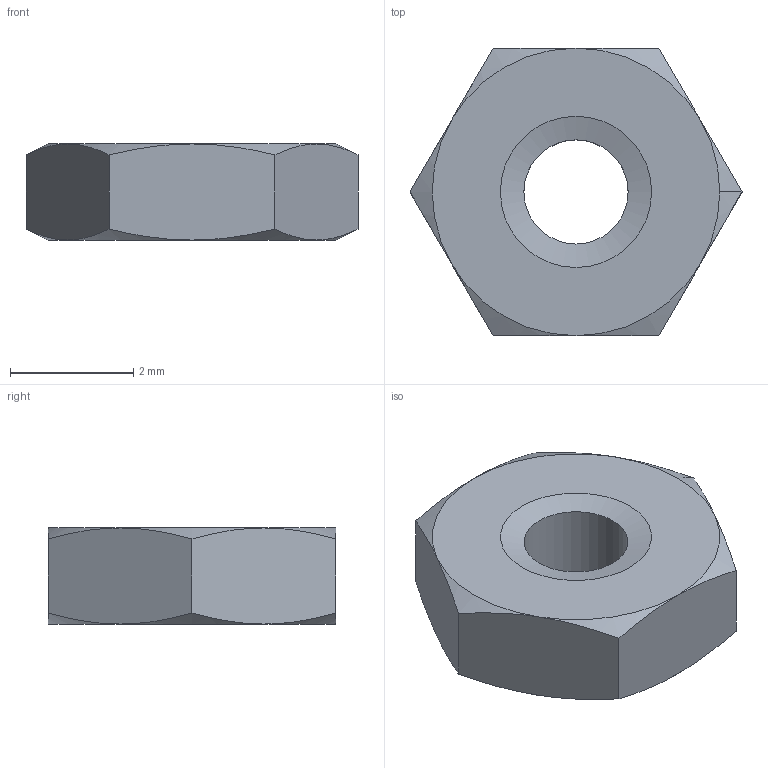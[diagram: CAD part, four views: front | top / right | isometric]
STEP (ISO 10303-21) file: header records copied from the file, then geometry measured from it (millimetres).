
FILE_DESCRIPTION(('FreeCAD Model'),'2;1');
FILE_NAME('Open CASCADE Shape Model','2022-06-02T23:23:34',( 'kicad StepUp'),('ksu MCAD'),'Open CASCADE STEP processor 7.5', 'FreeCAD','Unknown');
FILE_SCHEMA(('AUTOMOTIVE_DESIGN { 1 0 10303 214 1 1 1 1 }'));
Length unit declared in the file: millimetre
Products named in the file (1): #2-Nut
Bounding box: 5.4 x 4.67 x 1.56 mm (x, y, z)
Volume: 25.6 mm3; surface area: 64.4 mm2
Topology: 1 solids, 1 shells, 25 faces, 53 edges, 30 vertices
Faces by surface type: cone 16, plane 8, cylinder 1
Full cylindrical faces by diameter (mm): 1.693 x1
Entity records: 707 total; most frequent: DIRECTION 147, CARTESIAN_POINT 109, ORIENTED_EDGE 106, AXIS2_PLACEMENT_3D 68, EDGE_CURVE 53, VERTEX_POINT 30, FACE_BOUND 27, EDGE_LOOP 27
